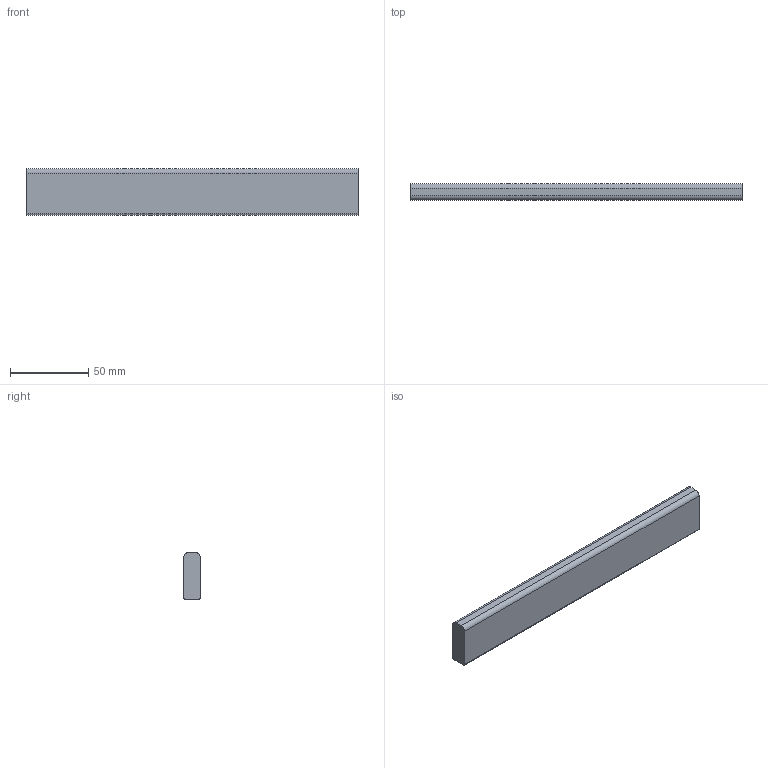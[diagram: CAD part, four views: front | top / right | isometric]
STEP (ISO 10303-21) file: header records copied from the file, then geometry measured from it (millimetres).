
FILE_DESCRIPTION (( 'STEP AP214' ), '1' );
FILE_NAME ('_Querreling_KAB-300_KS-16.step', '2010-08-26T14:58:58', ( 'grass' ), ( '' ), 'SwSTEP 2.0', 'SolidWorks 2009', '' );
FILE_SCHEMA (( 'AUTOMOTIVE_DESIGN' ));
Length unit declared in the file: millimetre
Products named in the file (1): _Querreling_KAB-300_KS-16
Bounding box: 212.5 x 10.5 x 30 mm (x, y, z)
Volume: 66025.4 mm3; surface area: 17104.3 mm2
Topology: 1 solids, 1 shells, 10 faces, 24 edges, 16 vertices
Faces by surface type: plane 6, cylinder 4
Entity records: 330 total; most frequent: DIRECTION 54, CARTESIAN_POINT 51, ORIENTED_EDGE 48, EDGE_CURVE 24, AXIS2_PLACEMENT_3D 19, VECTOR 16, LINE 16, VERTEX_POINT 16
